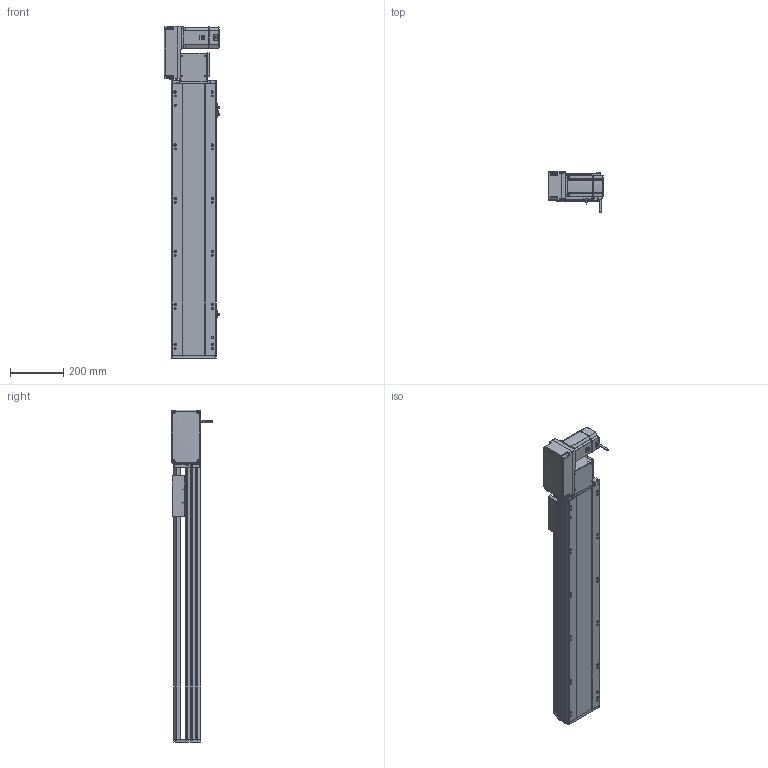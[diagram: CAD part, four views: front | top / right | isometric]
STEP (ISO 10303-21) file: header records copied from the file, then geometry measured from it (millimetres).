
FILE_DESCRIPTION (( 'STEP AP214' ), '1' );
FILE_NAME ('RTB17S-XX-750-L-M75-C4.STEP', '2025-12-12T00:10:26', ( '' ), ( '' ), 'SwSTEP 2.0', 'SolidWorks 2018', '' );
FILE_SCHEMA (( 'AUTOMOTIVE_DESIGN' ));
Length unit declared in the file: millimetre
Products named in the file (15): RTH13-BL-012覜茼え俋离^RTB17S-賑釱_RTB17S-XX-XX-L-M75-C4; RTB17S-L-々湍釱蚾饜-750W^RTB17S-XX-XX-L-M75-C4; RTB22S-GY-005P^RTB17S-L-々湍釱蚾饜-750W_RTB17S-XX-XX-L-M75-C4; RTB17-R-011菁釱^RTB17S-XX-XX-L-M75-C4; 750W萇儂^RTB17S-XX-XX-L-M75-C4; RTB17S-L-001-耜醱啣^RTB17S-XX-XX-L-M75-C4; RTB17S-XX-750-L-M75-C4; RTB22S-GY-008-M75--萇儂啣^RTB17S-L-々湍釱蚾饜-750W_RTB17S-XX-XX-L-M75-C4; RTB17S-L-004-賑釱^RTB17S-賑釱_RTB17S-XX-XX-L-M75-C4; RMP17S-L-014-T20-P75--々湍釱^RTB17S-L-々湍釱蚾饜-750W_RTB17S-XX-XX-L-M75-C4; RTB17S-賑釱^RTB17S-XX-XX-L-M75-C4; RTB22S-GY-018P^RTB17S-L-々湍釱蚾饜-750W_RTB17S-XX-XX-L-M75-C4; RTB22S-GY-017P^RTB17S-L-々湍釱蚾饜-750W_RTB17S-XX-XX-L-M75-C4; RTB17S-L-007奻裔^RTB17S-XX-XX-L-M75-C4; EE672^RTB17S-XX-XX-L-M75-C4
Assembly tree (17 placements, depth 3):
  RTB17S-XX-750-L-M75-C4
    RTB17-R-011菁釱^RTB17S-XX-XX-L-M75-C4
    EE672^RTB17S-XX-XX-L-M75-C4  x3
    RTB17S-L-001-耜醱啣^RTB17S-XX-XX-L-M75-C4
    RTB17S-賑釱^RTB17S-XX-XX-L-M75-C4
      RTB17S-L-004-賑釱^RTB17S-賑釱_RTB17S-XX-XX-L-M75-C4
      RTH13-BL-012覜茼え俋离^RTB17S-賑釱_RTB17S-XX-XX-L-M75-C4
    RTB17S-L-007奻裔^RTB17S-XX-XX-L-M75-C4
    750W萇儂^RTB17S-XX-XX-L-M75-C4
    RTB17S-L-々湍釱蚾饜-750W^RTB17S-XX-XX-L-M75-C4
      RMP17S-L-014-T20-P75--々湍釱^RTB17S-L-々湍釱蚾饜-750W_RTB17S-XX-XX-L-M75-C4
      RTB22S-GY-005P^RTB17S-L-々湍釱蚾饜-750W_RTB17S-XX-XX-L-M75-C4
      RTB22S-GY-017P^RTB17S-L-々湍釱蚾饜-750W_RTB17S-XX-XX-L-M75-C4  x2
      RTB22S-GY-008-M75--萇儂啣^RTB17S-L-々湍釱蚾饜-750W_RTB17S-XX-XX-L-M75-C4
      RTB22S-GY-018P^RTB17S-L-々湍釱蚾饜-750W_RTB17S-XX-XX-L-M75-C4
Bounding box: 210.4 x 152.7 x 1249 mm (x, y, z)
Volume: 10638349.4 mm3; surface area: 1763836.8 mm2
Topology: 17 solids, 17 shells, 2073 faces, 5728 edges, 3698 vertices
Faces by surface type: plane 968, cylinder 689, bspline 294, cone 110, sphere 8, torus 4
Entity records: 57334 total; most frequent: CARTESIAN_POINT 16792, ORIENTED_EDGE 8300, DIRECTION 7772, EDGE_CURVE 4150, AXIS2_PLACEMENT_3D 2718, VERTEX_POINT 2702, LINE 2336, VECTOR 2336
